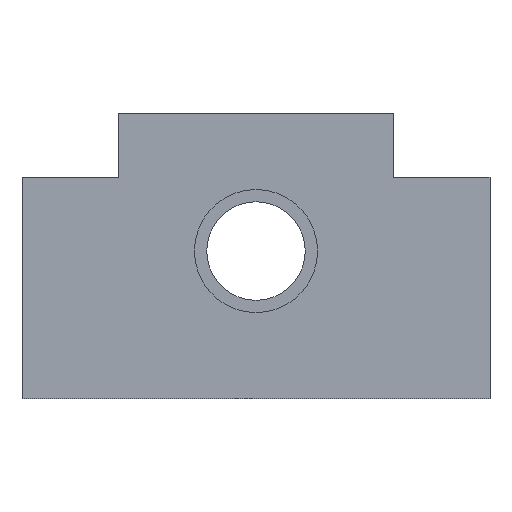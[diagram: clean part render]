
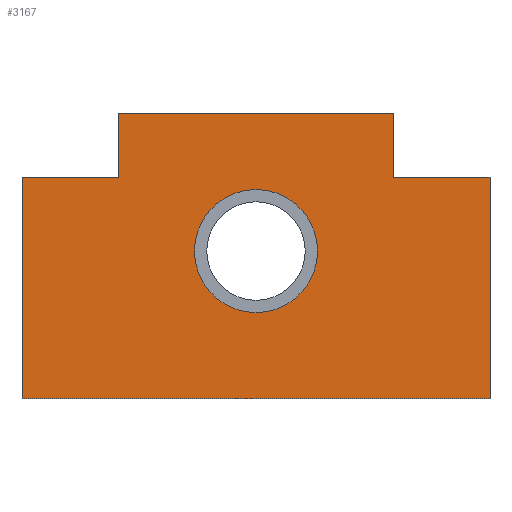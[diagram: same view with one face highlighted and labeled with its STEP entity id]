
A CAD part, left-side view. The second image highlights one B-rep face of the part: STEP entity #3167.
In plain terms, the highlighted planar face has unit normal (-1, 0, 0).
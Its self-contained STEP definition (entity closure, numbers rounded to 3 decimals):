
#1990=CARTESIAN_POINT('',(-42.0,12.5,0.0));
#1991=VERTEX_POINT('',#1990);
#1992=CARTESIAN_POINT('',(-42.0,0.0,0.0));
#1993=DIRECTION('',(1.0,0.,0.0));
#1994=DIRECTION('',(0.,1.0,0.0));
#1995=AXIS2_PLACEMENT_3D('',#1992,#1993,#1994);
#1996=CIRCLE('',#1995,12.5);
#1997=EDGE_CURVE('',#1991,#1991,#1996,.T.);
#2882=CARTESIAN_POINT('',(-42.0,-47.5,-30.));
#2883=VERTEX_POINT('',#2882);
#2884=CARTESIAN_POINT('',(-42.0,47.5,-30.));
#2885=VERTEX_POINT('',#2884);
#2886=CARTESIAN_POINT('',(-42.0,-47.5,-30.));
#2887=DIRECTION('',(0.0,1.0,0.0));
#2888=VECTOR('',#2887,95.0);
#2889=LINE('',#2886,#2888);
#2890=EDGE_CURVE('',#2883,#2885,#2889,.T.);
#2934=CARTESIAN_POINT('',(-42.0,47.5,15.));
#2935=VERTEX_POINT('',#2934);
#2936=CARTESIAN_POINT('',(-42.0,47.5,-30.));
#2937=DIRECTION('',(0.0,0.0,1.0));
#2938=VECTOR('',#2937,45.0);
#2939=LINE('',#2936,#2938);
#2940=EDGE_CURVE('',#2885,#2935,#2939,.T.);
#2965=CARTESIAN_POINT('',(-42.0,28.,15.));
#2966=VERTEX_POINT('',#2965);
#2967=CARTESIAN_POINT('',(-42.0,47.5,15.));
#2968=DIRECTION('',(0.0,-1.0,0.0));
#2969=VECTOR('',#2968,19.5);
#2970=LINE('',#2967,#2969);
#2971=EDGE_CURVE('',#2935,#2966,#2970,.T.);
#3002=CARTESIAN_POINT('',(-42.0,28.,28.));
#3003=VERTEX_POINT('',#3002);
#3004=CARTESIAN_POINT('',(-42.0,28.,15.));
#3005=DIRECTION('',(0.0,0.0,1.0));
#3006=VECTOR('',#3005,13.);
#3007=LINE('',#3004,#3006);
#3008=EDGE_CURVE('',#2966,#3003,#3007,.T.);
#3033=CARTESIAN_POINT('',(-42.0,-28.,28.));
#3034=VERTEX_POINT('',#3033);
#3035=CARTESIAN_POINT('',(-42.0,28.,28.));
#3036=DIRECTION('',(0.0,-1.0,0.0));
#3037=VECTOR('',#3036,56.);
#3038=LINE('',#3035,#3037);
#3039=EDGE_CURVE('',#3003,#3034,#3038,.T.);
#3064=CARTESIAN_POINT('',(-42.0,-28.,15.));
#3065=VERTEX_POINT('',#3064);
#3066=CARTESIAN_POINT('',(-42.0,-28.,28.));
#3067=DIRECTION('',(0.0,0.0,-1.0));
#3068=VECTOR('',#3067,13.);
#3069=LINE('',#3066,#3068);
#3070=EDGE_CURVE('',#3034,#3065,#3069,.T.);
#3095=CARTESIAN_POINT('',(-42.0,-47.5,15.));
#3096=VERTEX_POINT('',#3095);
#3097=CARTESIAN_POINT('',(-42.0,-28.,15.));
#3098=DIRECTION('',(0.0,-1.0,0.0));
#3099=VECTOR('',#3098,19.5);
#3100=LINE('',#3097,#3099);
#3101=EDGE_CURVE('',#3065,#3096,#3100,.T.);
#3132=CARTESIAN_POINT('',(-42.0,-47.5,15.));
#3133=DIRECTION('',(0.0,0.0,-1.0));
#3134=VECTOR('',#3133,45.0);
#3135=LINE('',#3132,#3134);
#3136=EDGE_CURVE('',#3096,#2883,#3135,.T.);
#3149=CARTESIAN_POINT('',(-42.0,0.,-2.657));
#3150=DIRECTION('',(1.0,0.0,0.0));
#3151=DIRECTION('',(0.0,0.0,-1.0));
#3152=AXIS2_PLACEMENT_3D('',#3149,#3150,#3151);
#3153=PLANE('',#3152);
#3154=ORIENTED_EDGE('',*,*,#2890,.F.);
#3155=ORIENTED_EDGE('',*,*,#3136,.F.);
#3156=ORIENTED_EDGE('',*,*,#3101,.F.);
#3157=ORIENTED_EDGE('',*,*,#3070,.F.);
#3158=ORIENTED_EDGE('',*,*,#3039,.F.);
#3159=ORIENTED_EDGE('',*,*,#3008,.F.);
#3160=ORIENTED_EDGE('',*,*,#2971,.F.);
#3161=ORIENTED_EDGE('',*,*,#2940,.F.);
#3162=EDGE_LOOP('',(#3154,#3155,#3156,#3157,#3158,#3159,#3160,#3161));
#3163=FACE_OUTER_BOUND('',#3162,.T.);
#3164=ORIENTED_EDGE('',*,*,#1997,.T.);
#3165=EDGE_LOOP('',(#3164));
#3166=FACE_BOUND('',#3165,.T.);
#3167=ADVANCED_FACE('',(#3163,#3166),#3153,.F.);
